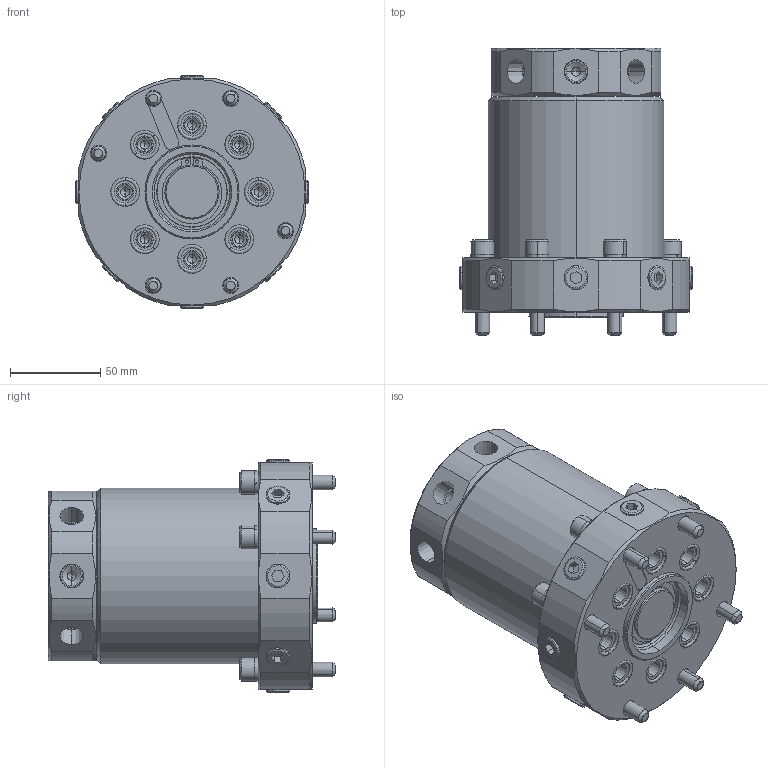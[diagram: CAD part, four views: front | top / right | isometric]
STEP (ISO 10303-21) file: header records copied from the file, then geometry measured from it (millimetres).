
FILE_DESCRIPTION (( 'STEP AP203' ), '1' );
FILE_NAME ('JRC0800-S-A.STEP', '2011-03-14T02:42:29', ( ' ' ), ( '' ), 'SwSTEP 2.0', 'SolidWorks 2010', '' );
FILE_SCHEMA (( 'CONFIG_CONTROL_DESIGN' ));
Length unit declared in the file: millimetre
Products named in the file (9): STW-30; JRC06_08トメワ受け; JRC0800-S-A; JRC0800ハウジング; JRC0800シャフト; 6妏寠晅无倌_M8_45; 曽宍兽然轤M8; Rネジ1_4; 1BP12（ｶﾞｽｹｯﾄ）
Assembly tree (32 placements, depth 2):
  JRC0800-S-A
    6妏寠晅无倌_M8_45  x6
    JRC06_08トメワ受け
    Rネジ1_4  x8
    1BP12（ｶﾞｽｹｯﾄ）  x8
    JRC0800ハウジング
    曽宍兽然轤M8  x6
    STW-30
    JRC0800シャフト
Bounding box: 128.6 x 159 x 128.6 mm (x, y, z)
Volume: 1181393.7 mm3; surface area: 160561.8 mm2
Topology: 32 solids, 32 shells, 887 faces, 1915 edges, 1088 vertices
Faces by surface type: cone 320, cylinder 274, plane 257, torus 36
Entity records: 17042 total; most frequent: CARTESIAN_POINT 3160, DIRECTION 2805, ORIENTED_EDGE 2390, EDGE_CURVE 1195, AXIS2_PLACEMENT_3D 1160, VERTEX_POINT 715, EDGE_LOOP 640, CIRCLE 576
